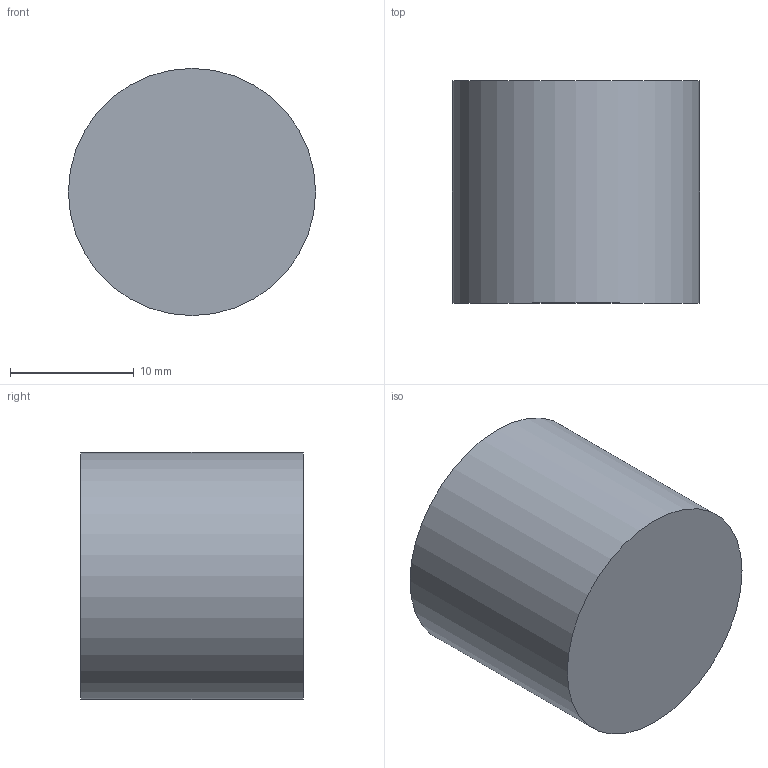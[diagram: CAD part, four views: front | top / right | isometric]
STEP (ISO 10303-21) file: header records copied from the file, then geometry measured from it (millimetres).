
FILE_DESCRIPTION(('Open CASCADE Model'),'2;1');
FILE_NAME('Open CASCADE Shape Model','2026-10-16T20:39:04',('Author'),( 'Open CASCADE'),'Open CASCADE STEP processor 7.8','Open CASCADE 7.8' ,'Unknown');
FILE_SCHEMA(('AUTOMOTIVE_DESIGN { 1 0 10303 214 1 1 1 1 }'));
Length unit declared in the file: millimetre
Products named in the file (1): Open CASCADE STEP translator 7.8 4
Bounding box: 20 x 18 x 20 mm (x, y, z)
Volume: 5654.9 mm3; surface area: 1759.3 mm2
Topology: 1 solids, 1 shells, 3 faces, 3 edges, 2 vertices
Faces by surface type: plane 2, cylinder 1
Full cylindrical faces by diameter (mm): 20 x1
Entity records: 108 total; most frequent: DIRECTION 19, CARTESIAN_POINT 15, AXIS2_PLACEMENT_3D 6, ORIENTED_EDGE 6, PCURVE 6, DEFINITIONAL_REPRESENTATION 6, LINE 5, VECTOR 5
